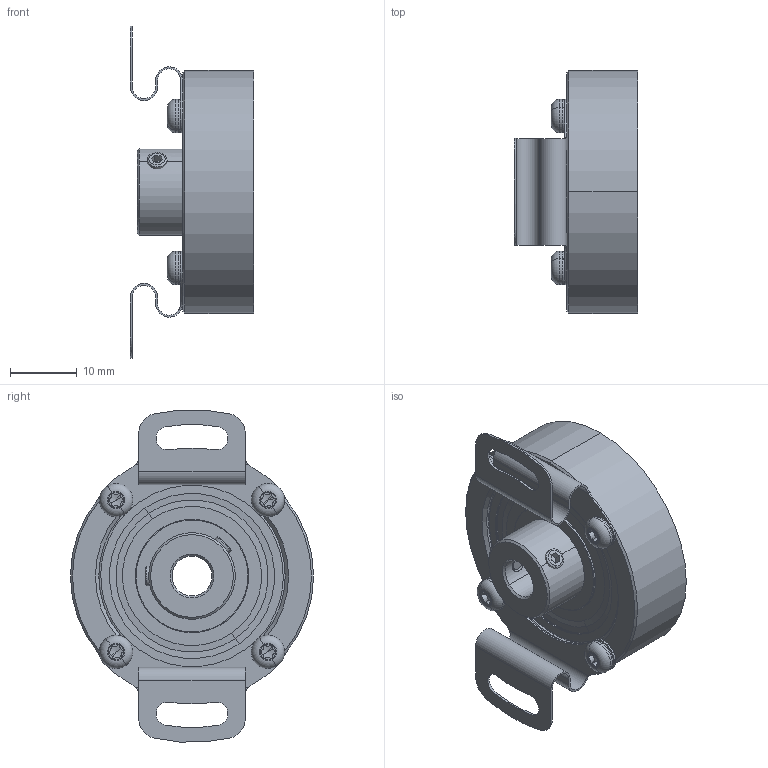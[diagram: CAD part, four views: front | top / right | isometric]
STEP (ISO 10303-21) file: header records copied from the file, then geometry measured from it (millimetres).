
FILE_DESCRIPTION (( 'STEP AP214' ), '1' );
FILE_NAME ('Drawing-UCD-A6S0-Q3A-N.STEP', '2016-10-17T07:40:54', ( '' ), ( '' ), 'SwSTEP 2.0', 'SolidWorks 2015', '' );
FILE_SCHEMA (( 'AUTOMOTIVE_DESIGN' ));
Length unit declared in the file: millimetre
Products named in the file (1): Drawing-UCD-A6S0-Q3A-N
Bounding box: 18.5 x 36.5 x 49.85 mm (x, y, z)
Volume: 9570.7 mm3; surface area: 12551.5 mm2
Topology: 25 solids, 25 shells, 493 faces, 1200 edges, 728 vertices
Faces by surface type: cylinder 164, cone 134, plane 99, bspline 56, torus 40
Entity records: 22191 total; most frequent: CARTESIAN_POINT 5036, DIRECTION 2572, ORIENTED_EDGE 2304, EDGE_CURVE 1152, AXIS2_PLACEMENT_3D 1112, VERTEX_POINT 728, CIRCLE 674, EDGE_LOOP 546
